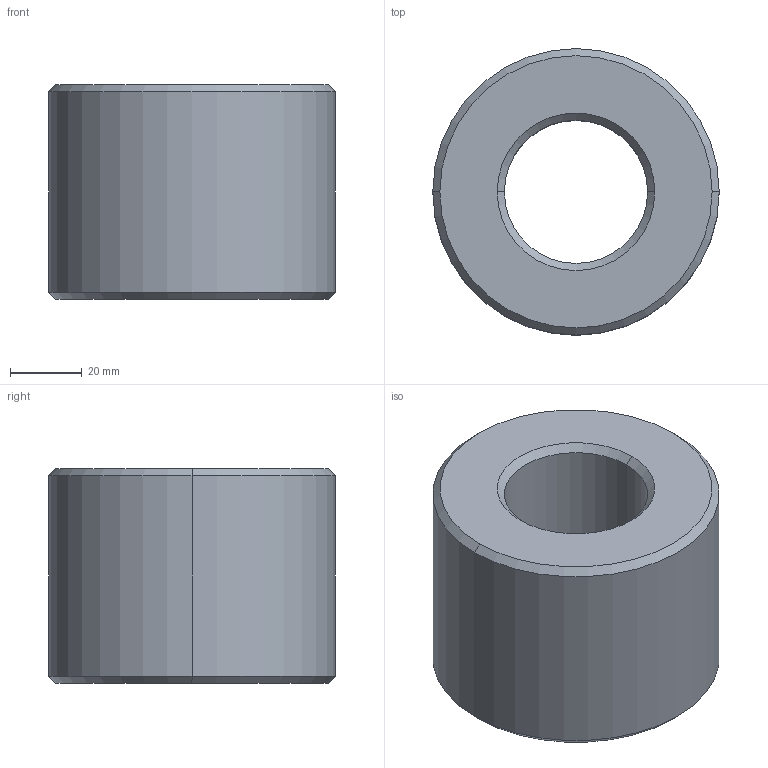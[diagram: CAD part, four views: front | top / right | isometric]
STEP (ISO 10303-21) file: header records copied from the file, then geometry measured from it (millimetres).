
FILE_DESCRIPTION (( 'STEP AP203' ), '1' );
FILE_NAME ('L1339.L40-07.step', '2024-10-24T14:06:46', ( '' ), ( '' ), 'SwSTEP 2.0', 'SolidWorks 2019', '' );
FILE_SCHEMA (( 'CONFIG_CONTROL_DESIGN' ));
Length unit declared in the file: millimetre
Products named in the file (1): L1339.L40-07
Bounding box: 80 x 80 x 60 mm (x, y, z)
Volume: 224686.7 mm3; surface area: 29275.9 mm2
Topology: 1 solids, 1 shells, 14 faces, 28 edges, 16 vertices
Faces by surface type: cone 8, cylinder 4, plane 2
Entity records: 445 total; most frequent: DIRECTION 74, CARTESIAN_POINT 59, ORIENTED_EDGE 56, AXIS2_PLACEMENT_3D 31, EDGE_CURVE 28, CIRCLE 16, EDGE_LOOP 16, VERTEX_POINT 16
